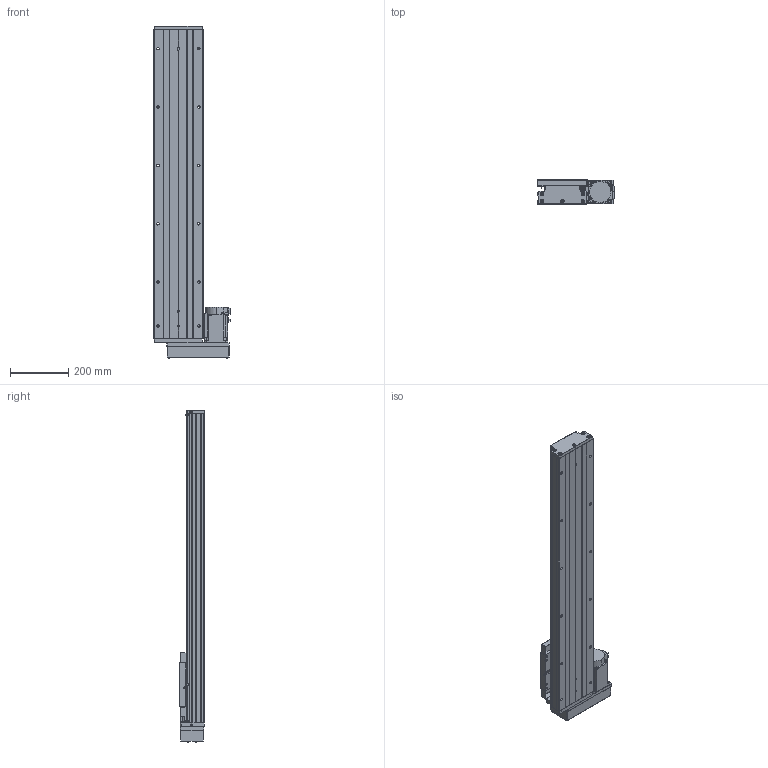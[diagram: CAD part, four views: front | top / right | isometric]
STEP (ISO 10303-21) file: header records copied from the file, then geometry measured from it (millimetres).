
FILE_DESCRIPTION (( 'STEP AP203' ), '1' );
FILE_NAME ('GTH17-800-BR-M75-C4.step', '2023-06-30T13:20:03', ( '微软用户' ), ( '微软中国' ), 'SwSTEP 2.0', 'SolidWorks 2020', '' );
FILE_SCHEMA (( 'CONFIG_CONTROL_DESIGN' ));
Length unit declared in the file: millimetre
Products named in the file (19): GB1155-6X6; GTH17-031; GTH17-800-BR-M75-C4; CTHA60-017; GBT 70.2-M3¡Á5_M3¡Á6; EE_SX911P_R; す晦芛蹟隊 M3℅5; GTH17-001_800; CTHA60-016; HG-KN73J-S100; GTH17-002_GTH17-002; GBT 70.1-M3℅5; GBT 70.2-M4¡Á45_M4¡Á35; GTH17-004; GBT77-2000 M3×3; GTH17-015-2_CTHA86-015-2; GTH17-005; GBT 70.1-M6¡Á20_M6¡Á20; GTH17-033
Assembly tree (58 placements, depth 2):
  GTH17-800-BR-M75-C4
    GTH17-001_800
    GTH17-002_GTH17-002
    GTH17-004
    GTH17-005
    GB1155-6X6  x2
    CTHA60-017  x3
    EE_SX911P_R  x3
    CTHA60-016  x2
    GBT 70.1-M3℅5  x6
    GBT77-2000 M3×3  x6
    GBT 70.1-M6¡Á20_M6¡Á20  x10
    GTH17-031
    GBT 70.2-M3¡Á5_M3¡Á6  x8
    す晦芛蹟隊 M3℅5  x6
    HG-KN73J-S100
    GBT 70.2-M4¡Á45_M4¡Á35  x4
    GTH17-015-2_CTHA86-015-2
    GTH17-033
Bounding box: 264.3 x 87 x 1138.2 mm (x, y, z)
Volume: 9446698.2 mm3; surface area: 1299246.5 mm2
Topology: 61 solids, 61 shells, 2449 faces, 5845 edges, 3619 vertices
Faces by surface type: plane 1310, cylinder 666, cone 297, torus 124, sphere 32, bspline 20
Entity records: 44738 total; most frequent: CARTESIAN_POINT 10366, DIRECTION 6481, ORIENTED_EDGE 6402, EDGE_CURVE 3201, AXIS2_PLACEMENT_3D 2212, VECTOR 2057, LINE 2057, VERTEX_POINT 2031
